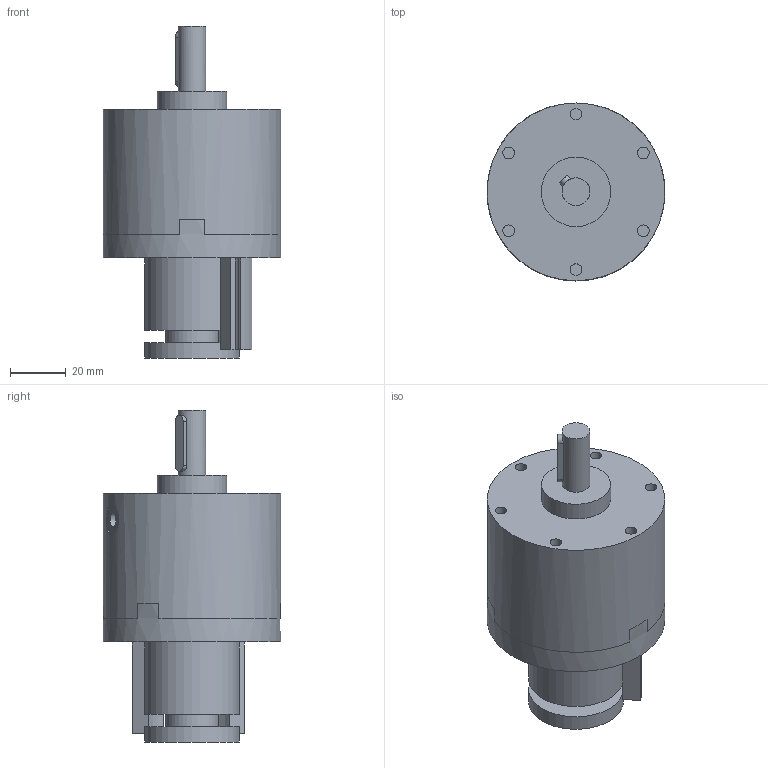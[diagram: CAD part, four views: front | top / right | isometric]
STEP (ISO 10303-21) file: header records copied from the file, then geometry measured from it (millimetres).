
FILE_DESCRIPTION(/* description */ (''),/* implementation_level */ '2;1');
FILE_NAME(/* name */ 'I:\Area Tecnica\Disegni\VARIE-3D\Componenti\6420\6420_##_###_#\6420_40_270_S.stp',/* time_stamp */ '2017-04-08T10:42:18+02:00',/* author */ ('Maniean1'),/* organization */ ('Pneumax S.p.A.'),/* preprocessor_version */ 'ST-DEVELOPER v15.2',/* originating_system */ 'Autodesk Inventor 2014',/* authorisation */ '');
FILE_SCHEMA (('AUTOMOTIVE_DESIGN { 1 0 10303 214 3 1 1 }'));
Length unit declared in the file: millimetre
Products named in the file (7): 6420_40_C; 6420_40_S; 6420_40_270; 6420_40_SS; SEDE SENSORE Ø40; K6420_40_270_S(_FS)T; 6420_40_270_S
Bounding box: 64 x 64 x 119.5 mm (x, y, z)
Volume: 212322.9 mm3; surface area: 41193.8 mm2
Topology: 5 solids, 5 shells, 103 faces, 239 edges, 161 vertices
Faces by surface type: plane 59, cylinder 44
Full cylindrical faces by diameter (mm): 4.2 x6, 5 x8, 10 x2, 10.5 x2, 19 x1, 25 x2, 34 x2, 64 x2
Entity records: 2775 total; most frequent: CARTESIAN_POINT 515, DIRECTION 476, ORIENTED_EDGE 352, AXIS2_PLACEMENT_3D 197, EDGE_CURVE 176, EDGE_LOOP 142, VERTEX_POINT 132, ADVANCED_FACE 93
